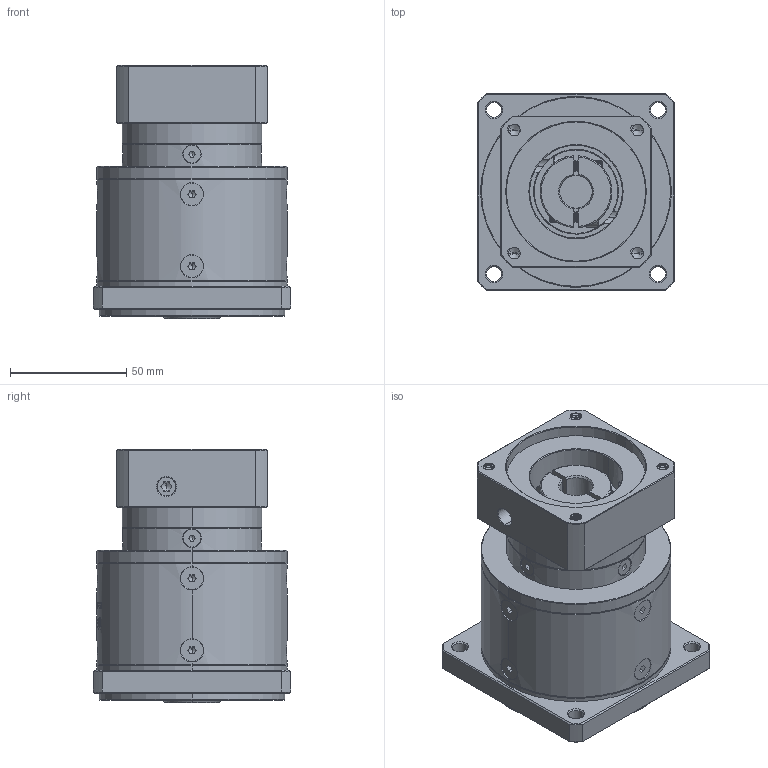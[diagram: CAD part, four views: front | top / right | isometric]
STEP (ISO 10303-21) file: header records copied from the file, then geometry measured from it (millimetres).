
FILE_DESCRIPTION (( 'STEP AP214' ), '1' );
FILE_NAME ('ZF80-K15-L2-14-60-75-M6.step', '2022-09-16T05:41:22', ( '' ), ( 'Microsoft' ), 'SwSTEP 2.0', 'SolidWorks 2016', '' );
FILE_SCHEMA (( 'AUTOMOTIVE_DESIGN' ));
Length unit declared in the file: millimetre
Products named in the file (1): ZF80-K15-L2-14-60-75-M6
Bounding box: 85 x 85 x 109 mm (x, y, z)
Volume: 464872.1 mm3; surface area: 69286.6 mm2
Topology: 18 solids, 18 shells, 2001 faces, 5230 edges, 3325 vertices
Faces by surface type: plane 946, cylinder 402, cone 321, bspline 318, torus 14
Entity records: 104943 total; most frequent: CARTESIAN_POINT 37093, ORIENTED_EDGE 10388, DIRECTION 8336, EDGE_CURVE 5194, VERTEX_POINT 3325, VECTOR 2824, LINE 2824, AXIS2_PLACEMENT_3D 2756
